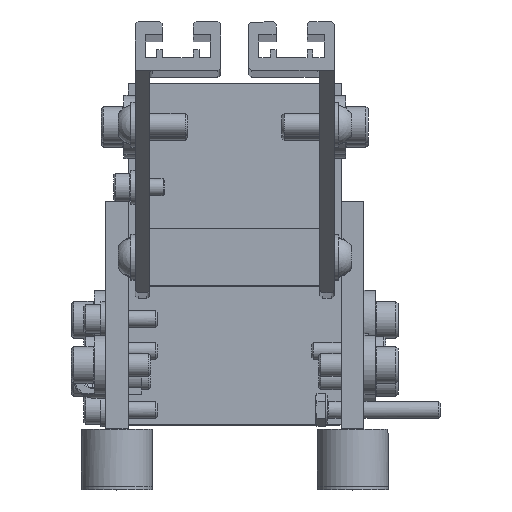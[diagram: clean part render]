
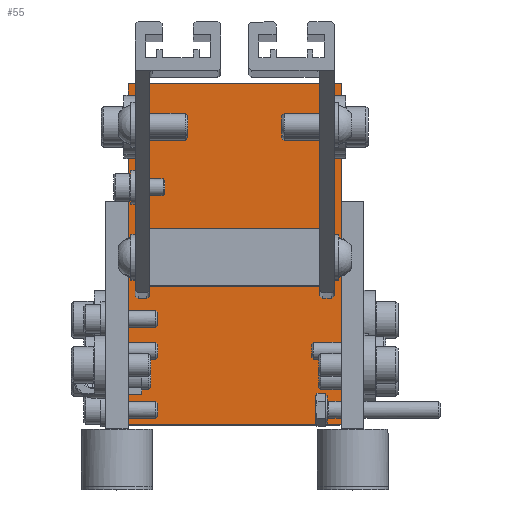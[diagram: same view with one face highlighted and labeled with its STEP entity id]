
A CAD part, top view. The second image highlights one B-rep face of the part: STEP entity #55.
In plain terms, the highlighted planar face has unit normal (0, 0, 1).
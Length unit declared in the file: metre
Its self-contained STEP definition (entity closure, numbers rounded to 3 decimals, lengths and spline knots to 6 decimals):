
#55 = ADVANCED_FACE( 'NONE', ( #472 ), #473, .T. );
#472 = FACE_OUTER_BOUND( '', #1500, .T. );
#473 = PLANE( '', #1501 );
#1500 = EDGE_LOOP( '', ( #2721, #2722, #2723, #2724, #2725, #2726, #2727, #2728, #2729, #2730 ) );
#1501 = AXIS2_PLACEMENT_3D( '', #2731, #2732, #2733 );
#2721 = ORIENTED_EDGE( '', *, *, #5321, .F. );
#2722 = ORIENTED_EDGE( '', *, *, #5322, .T. );
#2723 = ORIENTED_EDGE( '', *, *, #5323, .T. );
#2724 = ORIENTED_EDGE( '', *, *, #5324, .T. );
#2725 = ORIENTED_EDGE( '', *, *, #5325, .F. );
#2726 = ORIENTED_EDGE( '', *, *, #5326, .T. );
#2727 = ORIENTED_EDGE( '', *, *, #5327, .T. );
#2728 = ORIENTED_EDGE( '', *, *, #5328, .F. );
#2729 = ORIENTED_EDGE( '', *, *, #5329, .F. );
#2730 = ORIENTED_EDGE( '', *, *, #5330, .F. );
#2731 = CARTESIAN_POINT( '', ( 0.0375, -0.0195, -1.33 ) );
#2732 = DIRECTION( '', ( 0., 0., 1. ) );
#2733 = DIRECTION( '', ( 1., 0., 0. ) );
#5321 = EDGE_CURVE( 'NONE', #6076, #6077, #6078, .T. );
#5322 = EDGE_CURVE( 'NONE', #6076, #6079, #6080, .T. );
#5323 = EDGE_CURVE( 'NONE', #6079, #6081, #6082, .T. );
#5324 = EDGE_CURVE( 'NONE', #6081, #6083, #6084, .T. );
#5325 = EDGE_CURVE( 'NONE', #6085, #6083, #6086, .T. );
#5326 = EDGE_CURVE( 'NONE', #6085, #6087, #6088, .T. );
#5327 = EDGE_CURVE( 'NONE', #6087, #6089, #6090, .T. );
#5328 = EDGE_CURVE( 'NONE', #6091, #6089, #6092, .T. );
#5329 = EDGE_CURVE( 'NONE', #6093, #6091, #6094, .T. );
#5330 = EDGE_CURVE( 'NONE', #6077, #6093, #6095, .T. );
#6076 = VERTEX_POINT( 'NONE', #7391 );
#6077 = VERTEX_POINT( 'NONE', #7392 );
#6078 = LINE( '', #7393, #7394 );
#6079 = VERTEX_POINT( 'NONE', #7395 );
#6080 = LINE( '', #7396, #7397 );
#6081 = VERTEX_POINT( 'NONE', #7398 );
#6082 = LINE( '', #7399, #7400 );
#6083 = VERTEX_POINT( 'NONE', #7401 );
#6084 = LINE( '', #7402, #7403 );
#6085 = VERTEX_POINT( 'NONE', #7404 );
#6086 = LINE( '', #7405, #7406 );
#6087 = VERTEX_POINT( 'NONE', #7407 );
#6088 = LINE( '', #7408, #7409 );
#6089 = VERTEX_POINT( 'NONE', #7410 );
#6090 = LINE( '', #7411, #7412 );
#6091 = VERTEX_POINT( 'NONE', #7413 );
#6092 = LINE( '', #7414, #7415 );
#6093 = VERTEX_POINT( 'NONE', #7416 );
#6094 = LINE( '', #7417, #7418 );
#6095 = LINE( '', #7419, #7420 );
#7391 = CARTESIAN_POINT( '', ( 0.0375, -0.1395, -1.33 ) );
#7392 = CARTESIAN_POINT( '', ( -0.0375, -0.1395, -1.33 ) );
#7393 = CARTESIAN_POINT( '', ( 0.0375, -0.1395, -1.33 ) );
#7394 = VECTOR( '', #9269, 1. );
#7395 = CARTESIAN_POINT( '', ( 0.0375, -0.10675, -1.33 ) );
#7396 = CARTESIAN_POINT( '', ( 0.0375, -0.0625, -1.33 ) );
#7397 = VECTOR( '', #9270, 1. );
#7398 = CARTESIAN_POINT( '', ( 0.0375, -0.09825, -1.33 ) );
#7399 = CARTESIAN_POINT( '', ( 0.0375, -0.0625, -1.33 ) );
#7400 = VECTOR( '', #9271, 1. );
#7401 = CARTESIAN_POINT( '', ( 0.0375, -0.0625, -1.33 ) );
#7402 = CARTESIAN_POINT( '', ( 0.0375, -0.0625, -1.33 ) );
#7403 = VECTOR( '', #9272, 1. );
#7404 = CARTESIAN_POINT( '', ( 0.0375, -0.0195, -1.33 ) );
#7405 = CARTESIAN_POINT( '', ( 0.0375, -0.0195, -1.33 ) );
#7406 = VECTOR( '', #9273, 1. );
#7407 = CARTESIAN_POINT( '', ( -0.0375, -0.0195, -1.33 ) );
#7408 = CARTESIAN_POINT( '', ( 0.0375, -0.0195, -1.33 ) );
#7409 = VECTOR( '', #9274, 1. );
#7410 = CARTESIAN_POINT( '', ( -0.0375, -0.0625, -1.33 ) );
#7411 = CARTESIAN_POINT( '', ( -0.0375, -0.0195, -1.33 ) );
#7412 = VECTOR( '', #9275, 1. );
#7413 = CARTESIAN_POINT( '', ( -0.0375, -0.09825, -1.33 ) );
#7414 = CARTESIAN_POINT( '', ( -0.0375, -0.0625, -1.33 ) );
#7415 = VECTOR( '', #9276, 1. );
#7416 = CARTESIAN_POINT( '', ( -0.0375, -0.10675, -1.33 ) );
#7417 = CARTESIAN_POINT( '', ( -0.0375, -0.0625, -1.33 ) );
#7418 = VECTOR( '', #9277, 1. );
#7419 = CARTESIAN_POINT( '', ( -0.0375, -0.0625, -1.33 ) );
#7420 = VECTOR( '', #9278, 1. );
#9269 = DIRECTION( '', ( -1., 0., 0. ) );
#9270 = DIRECTION( '', ( 0., 1., 0. ) );
#9271 = DIRECTION( '', ( 0., 1., 0. ) );
#9272 = DIRECTION( '', ( 0., 1., 0. ) );
#9273 = DIRECTION( '', ( 0., -1., 0. ) );
#9274 = DIRECTION( '', ( -1., 0., 0. ) );
#9275 = DIRECTION( '', ( 0., -1., 0. ) );
#9276 = DIRECTION( '', ( 0., 1., 0. ) );
#9277 = DIRECTION( '', ( 0., 1., 0. ) );
#9278 = DIRECTION( '', ( 0., 1., 0. ) );
